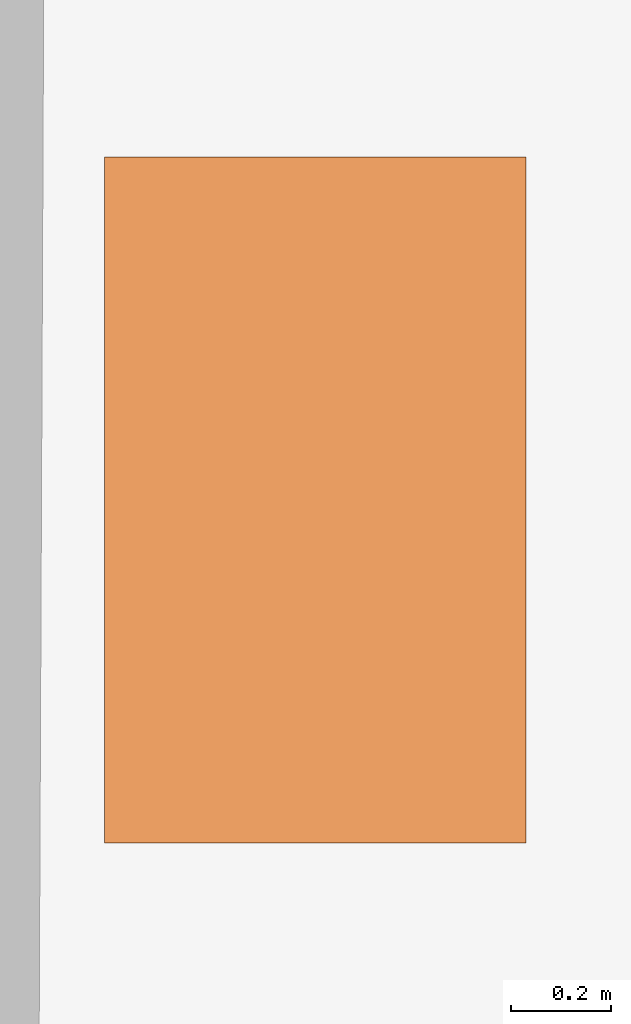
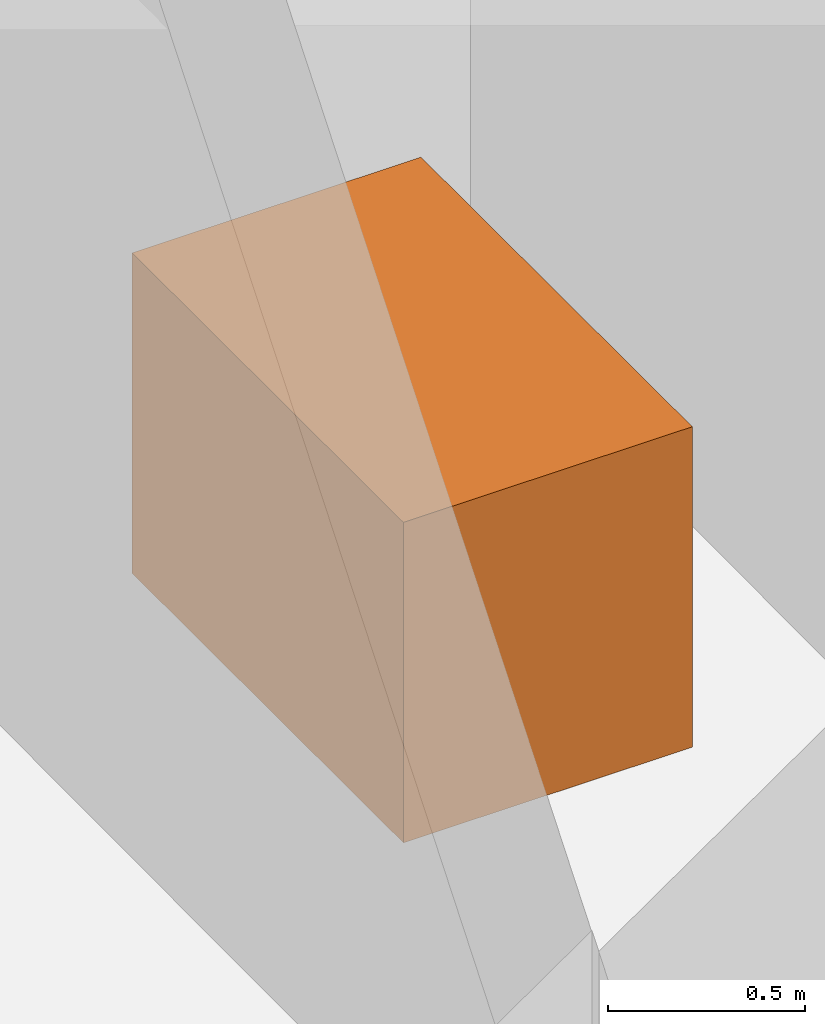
# One storey, part 191 of 196: 1 proxy.
"""IFC2X3 building model written with IfcOpenShell, lengths in metres."""

from ifc_helpers import new_model, entity, si_unit, converted_unit, derived_unit, money_unit, direction, frame, origin_with_axes, place, context, subcontext, project, spatial, faceted_brep, material, type_object, element, save


model = new_model("IFC2X3")

# Units and contexts
model_context = context("Model", 3, precision=1e-05, world=origin_with_axes(), true_north=direction((0.0, 1.0)))
body_context = subcontext(model_context, "Body", "Model", "MODEL_VIEW")
ifc_project = project(units=[si_unit("LENGTHUNIT", "METRE"), si_unit("AREAUNIT", "SQUARE_METRE"), si_unit("VOLUMEUNIT", "CUBIC_METRE"), converted_unit("PLANEANGLEUNIT", "DEGREE", entity("IfcPlaneAngleMeasure", 0.0174532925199), si_unit("PLANEANGLEUNIT", "RADIAN"), dimensions=[0, 0, 0, 0, 0, 0, 0]), money_unit("EUR"), converted_unit("TIMEUNIT", "Year", entity("IfcTimeMeasure", 31556926.0), si_unit("TIMEUNIT", "SECOND"), dimensions=[0, 0, 1, 0, 0, 0, 0]), si_unit("MASSUNIT", "GRAM", prefix="KILO"), si_unit("THERMODYNAMICTEMPERATUREUNIT", "DEGREE_CELSIUS"), si_unit("LUMINOUSINTENSITYUNIT", "LUMEN"), si_unit("ENERGYUNIT", "JOULE", prefix="MEGA"), derived_unit("THERMALCONDUCTANCEUNIT", [(si_unit("POWERUNIT", "WATT"), 1), (si_unit("LENGTHUNIT", "METRE"), -1), (si_unit("THERMODYNAMICTEMPERATUREUNIT", "KELVIN"), -1)]), derived_unit("SPECIFICHEATCAPACITYUNIT", [(si_unit("ENERGYUNIT", "JOULE"), 1), (si_unit("MASSUNIT", "GRAM", prefix="KILO"), -1), (si_unit("THERMODYNAMICTEMPERATUREUNIT", "KELVIN"), -1)]), derived_unit("MASSDENSITYUNIT", [(si_unit("MASSUNIT", "GRAM", prefix="KILO"), 1), (si_unit("VOLUMEUNIT", "CUBIC_METRE"), -1)])], contexts=[model_context])

# Site, building, storey
site_placement = place(None, origin_with_axes())
site = spatial("IfcSite", under=ifc_project, at=site_placement, Name="Gelände", CompositionType="ELEMENT")
building_placement = place(site_placement, origin_with_axes())
building = spatial("IfcBuilding", under=site, at=building_placement, Name="Gebäude", CompositionType="ELEMENT")
storey_placement = place(building_placement, frame((0.0, 0.0, -3.0), z_axis=(0.0, 0.0, 1.0), x_axis=(1.0, 0.0, 0.0)))
storey = spatial("IfcBuildingStorey", under=building, at=storey_placement, Name="KELLERGESCHOSS", CompositionType="ELEMENT", Elevation=-3.0)

# Proxy
ifc_material = material(Name="01_ALLGEMEIN - BAUTEIL")
building_element_proxy_type = type_object("IfcBuildingElementProxyType", Name="01_ALLGEMEIN - BAUTEIL", PredefinedType="NOTDEFINED")
proxy_placement = place(storey_placement, frame((-8.11678144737, 40.6603792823, 1.91585311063), z_axis=(0.0, 0.0, 1.0), x_axis=(1.0, 0.0, 0.0)))
element("IfcBuildingElementProxy", 1, at=proxy_placement, inside=storey, type_object=building_element_proxy_type, material=ifc_material, Name="Morph-021", context=body_context, shape_type="Brep", body=[
    faceted_brep([(0.0, 1.37756777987, -0.992905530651), (0.0, 0.0, -0.992905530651), (0.0, 0.0, 0.0), (0.0, 1.37756777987, 0.0), (0.846806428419, 1.37756777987, -0.992905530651), (0.846806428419, 0.0, -0.992905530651), (0.846806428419, 0.0, 0.0), (0.846806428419, 1.37756777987, 0.0)], [[[0, 1, 2, 3]], [[1, 0, 4, 5]], [[2, 1, 5, 6]], [[2, 6, 7, 3]], [[0, 3, 7, 4]], [[6, 5, 4, 7]]]),
])

save(model, "model.ifc")
